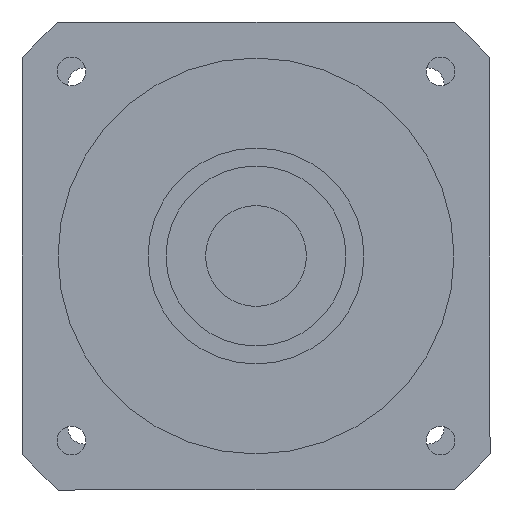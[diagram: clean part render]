
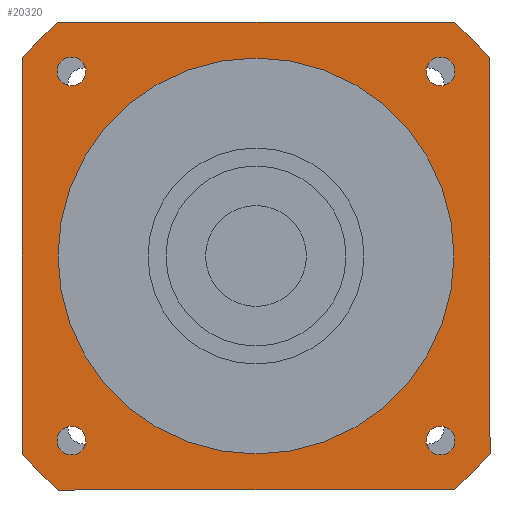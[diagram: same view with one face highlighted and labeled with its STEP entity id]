
A CAD part, left-side view. The second image highlights one B-rep face of the part: STEP entity #20320.
In plain terms, the highlighted planar face has unit normal (-1, 0, 0) as drawn and (0, 0, -1) by its records, which use the part's own axes.
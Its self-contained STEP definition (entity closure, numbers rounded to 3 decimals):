
#18480=CARTESIAN_POINT('',(-47.265,-51.265,-124.));
#18490=VERTEX_POINT('',#18480);
#18570=CARTESIAN_POINT('',(-55.265,-51.265,-124.));
#18580=VERTEX_POINT('',#18570);
#18610=CARTESIAN_POINT('',(-51.265,-51.265,-124.));
#18620=DIRECTION('',(0.,0.,-1.));
#18630=DIRECTION('',(0.,-1.,0.));
#18640=AXIS2_PLACEMENT_3D('',#18610,#18620,#18630);
#18650=CIRCLE('',#18640,4.);
#18660=CARTESIAN_POINT('',(-51.265,-55.265,-124.));
#18670=VERTEX_POINT('',#18660);
#18680=EDGE_CURVE('',#18670,#18580,#18650,.T.);
#18700=EDGE_CURVE('',#18490,#18670,#18650,.T.);
#18750=CARTESIAN_POINT('',(-65.,65.,-124.));
#18760=DIRECTION('',(0.,0.,1.));
#18770=DIRECTION('',(-1.,0.,0.));
#18780=AXIS2_PLACEMENT_3D('',#18750,#18760,#18770);
#18790=PLANE('',#18780);
#18800=CARTESIAN_POINT('',(51.265,-51.265,-124.));
#18810=DIRECTION('',(0.,0.,-1.));
#18820=DIRECTION('',(1.,0.,0.));
#18830=AXIS2_PLACEMENT_3D('',#18800,#18810,#18820);
#18840=CIRCLE('',#18830,4.);
#18850=CARTESIAN_POINT('',(55.265,-51.265,-124.));
#18860=VERTEX_POINT('',#18850);
#18870=CARTESIAN_POINT('',(51.265,-55.265,-124.));
#18880=VERTEX_POINT('',#18870);
#18890=EDGE_CURVE('',#18860,#18880,#18840,.T.);
#18900=ORIENTED_EDGE('',*,*,#18890,.F.);
#18910=CARTESIAN_POINT('',(51.265,-47.265,-124.));
#18920=VERTEX_POINT('',#18910);
#18930=EDGE_CURVE('',#18880,#18920,#18840,.T.);
#18940=ORIENTED_EDGE('',*,*,#18930,.F.);
#18950=EDGE_CURVE('',#18920,#18860,#18840,.T.);
#18960=ORIENTED_EDGE('',*,*,#18950,.F.);
#18970=EDGE_LOOP('',(#18960,#18940,#18900));
#18980=FACE_BOUND('',#18970,.T.);
#18990=CARTESIAN_POINT('',(51.265,51.265,-124.));
#19000=DIRECTION('',(0.,0.,-1.));
#19010=DIRECTION('',(0.,1.,0.));
#19020=AXIS2_PLACEMENT_3D('',#18990,#19000,#19010);
#19030=CIRCLE('',#19020,4.);
#19040=CARTESIAN_POINT('',(51.265,55.265,-124.));
#19050=VERTEX_POINT('',#19040);
#19060=CARTESIAN_POINT('',(55.265,51.265,-124.));
#19070=VERTEX_POINT('',#19060);
#19080=EDGE_CURVE('',#19050,#19070,#19030,.T.);
#19090=ORIENTED_EDGE('',*,*,#19080,.F.);
#19100=CARTESIAN_POINT('',(47.265,51.265,-124.));
#19110=VERTEX_POINT('',#19100);
#19120=EDGE_CURVE('',#19070,#19110,#19030,.T.);
#19130=ORIENTED_EDGE('',*,*,#19120,.F.);
#19140=EDGE_CURVE('',#19110,#19050,#19030,.T.);
#19150=ORIENTED_EDGE('',*,*,#19140,.F.);
#19160=EDGE_LOOP('',(#19150,#19130,#19090));
#19170=FACE_BOUND('',#19160,.T.);
#19180=CARTESIAN_POINT('',(-51.265,51.265,-124.));
#19190=DIRECTION('',(0.,0.,-1.));
#19200=DIRECTION('',(-1.,0.,0.));
#19210=AXIS2_PLACEMENT_3D('',#19180,#19190,#19200);
#19220=CIRCLE('',#19210,4.);
#19230=CARTESIAN_POINT('',(-55.265,51.265,-124.));
#19240=VERTEX_POINT('',#19230);
#19250=CARTESIAN_POINT('',(-51.265,55.265,-124.));
#19260=VERTEX_POINT('',#19250);
#19270=EDGE_CURVE('',#19240,#19260,#19220,.T.);
#19280=ORIENTED_EDGE('',*,*,#19270,.F.);
#19290=CARTESIAN_POINT('',(-51.265,47.265,-124.));
#19300=VERTEX_POINT('',#19290);
#19310=EDGE_CURVE('',#19260,#19300,#19220,.T.);
#19320=ORIENTED_EDGE('',*,*,#19310,.F.);
#19330=EDGE_CURVE('',#19300,#19240,#19220,.T.);
#19340=ORIENTED_EDGE('',*,*,#19330,.F.);
#19350=EDGE_LOOP('',(#19340,#19320,#19280));
#19360=FACE_BOUND('',#19350,.T.);
#19370=ORIENTED_EDGE('',*,*,#18680,.F.);
#19380=EDGE_CURVE('',#18580,#18490,#18650,.T.);
#19390=ORIENTED_EDGE('',*,*,#19380,.F.);
#19400=ORIENTED_EDGE('',*,*,#18700,.F.);
#19410=EDGE_LOOP('',(#19400,#19390,#19370));
#19420=FACE_BOUND('',#19410,.T.);
#19430=CARTESIAN_POINT('',(0.,0.,
-124.));
#19440=DIRECTION('',(0.,0.,1.));
#19450=DIRECTION('',(0.,-1.,0.));
#19460=AXIS2_PLACEMENT_3D('',#19430,#19440,#19450);
#19470=CIRCLE('',#19460,85.);
#19480=CARTESIAN_POINT('',(-65.,-54.772,-124.));
#19490=VERTEX_POINT('',#19480);
#19500=CARTESIAN_POINT('',(-54.772,-65.,-124.));
#19510=VERTEX_POINT('',#19500);
#19520=EDGE_CURVE('',#19490,#19510,#19470,.T.);
#19530=ORIENTED_EDGE('',*,*,#19520,.F.);
#19540=CARTESIAN_POINT('',(-65.,-65.,-124.));
#19550=DIRECTION('',(1.,0.,0.));
#19560=VECTOR('',#19550,1000.);
#19570=LINE('',#19540,#19560);
#19580=CARTESIAN_POINT('',(54.772,-65.,-124.));
#19590=VERTEX_POINT('',#19580);
#19600=EDGE_CURVE('',#19510,#19590,#19570,.T.);
#19610=ORIENTED_EDGE('',*,*,#19600,.F.);
#19620=CARTESIAN_POINT('',(0.,0.,
-124.));
#19630=DIRECTION('',(0.,0.,1.));
#19640=DIRECTION('',(0.,-1.,0.));
#19650=AXIS2_PLACEMENT_3D('',#19620,#19630,#19640);
#19660=CIRCLE('',#19650,85.);
#19670=CARTESIAN_POINT('',(65.,-54.772,-124.));
#19680=VERTEX_POINT('',#19670);
#19690=EDGE_CURVE('',#19590,#19680,#19660,.T.);
#19700=ORIENTED_EDGE('',*,*,#19690,.F.);
#19710=CARTESIAN_POINT('',(65.,-65.,-124.));
#19720=DIRECTION('',(0.,1.,0.));
#19730=VECTOR('',#19720,1000.);
#19740=LINE('',#19710,#19730);
#19750=CARTESIAN_POINT('',(65.,54.772,-124.));
#19760=VERTEX_POINT('',#19750);
#19770=EDGE_CURVE('',#19680,#19760,#19740,.T.);
#19780=ORIENTED_EDGE('',*,*,#19770,.F.);
#19790=CARTESIAN_POINT('',(0.,0.,
-124.));
#19800=DIRECTION('',(0.,0.,1.));
#19810=DIRECTION('',(0.,-1.,0.));
#19820=AXIS2_PLACEMENT_3D('',#19790,#19800,#19810);
#19830=CIRCLE('',#19820,85.);
#19840=CARTESIAN_POINT('',(54.772,65.,-124.));
#19850=VERTEX_POINT('',#19840);
#19860=EDGE_CURVE('',#19760,#19850,#19830,.T.);
#19870=ORIENTED_EDGE('',*,*,#19860,.F.);
#19880=CARTESIAN_POINT('',(65.,65.,-124.));
#19890=DIRECTION('',(-1.,0.,0.));
#19900=VECTOR('',#19890,1000.);
#19910=LINE('',#19880,#19900);
#19920=CARTESIAN_POINT('',(-54.772,65.,-124.));
#19930=VERTEX_POINT('',#19920);
#19940=EDGE_CURVE('',#19850,#19930,#19910,.T.);
#19950=ORIENTED_EDGE('',*,*,#19940,.F.);
#19960=CARTESIAN_POINT('',(0.,0.,
-124.));
#19970=DIRECTION('',(0.,0.,1.));
#19980=DIRECTION('',(0.,-1.,0.));
#19990=AXIS2_PLACEMENT_3D('',#19960,#19970,#19980);
#20000=CIRCLE('',#19990,85.);
#20010=CARTESIAN_POINT('',(-65.,54.772,-124.));
#20020=VERTEX_POINT('',#20010);
#20030=EDGE_CURVE('',#19930,#20020,#20000,.T.);
#20040=ORIENTED_EDGE('',*,*,#20030,.F.);
#20050=CARTESIAN_POINT('',(-65.,65.,-124.));
#20060=DIRECTION('',(0.,-1.,0.));
#20070=VECTOR('',#20060,1000.);
#20080=LINE('',#20050,#20070);
#20090=EDGE_CURVE('',#20020,#19490,#20080,.T.);
#20100=ORIENTED_EDGE('',*,*,#20090,.F.);
#20110=EDGE_LOOP('',(#20100,#20040,#19950,#19870,#19780,#19700,#19610,
#19530));
#20120=FACE_OUTER_BOUND('',#20110,.T.);
#20130=CARTESIAN_POINT('',(0.,0.,
-124.));
#20140=DIRECTION('',(0.,0.,1.));
#20150=DIRECTION('',(0.,-1.,0.));
#20160=AXIS2_PLACEMENT_3D('',#20130,#20140,#20150);
#20170=CIRCLE('',#20160,55.);
#20180=CARTESIAN_POINT('',(55.,0.,-124.));
#20190=VERTEX_POINT('',#20180);
#20200=CARTESIAN_POINT('',(-55.,0.,-124.));
#20210=VERTEX_POINT('',#20200);
#20220=EDGE_CURVE('',#20190,#20210,#20170,.T.);
#20230=ORIENTED_EDGE('',*,*,#20220,.T.);
#20240=CARTESIAN_POINT('',(0.,-55.,-124.));
#20250=VERTEX_POINT('',#20240);
#20260=EDGE_CURVE('',#20250,#20190,#20170,.T.);
#20270=ORIENTED_EDGE('',*,*,#20260,.T.);
#20280=EDGE_CURVE('',#20210,#20250,#20170,.T.);
#20290=ORIENTED_EDGE('',*,*,#20280,.T.);
#20300=EDGE_LOOP('',(#20290,#20270,#20230));
#20310=FACE_BOUND('',#20300,.T.);
#20320=ADVANCED_FACE('',(#18980,#19170,#19360,#19420,#20120,#20310),
#18790,.F.);
